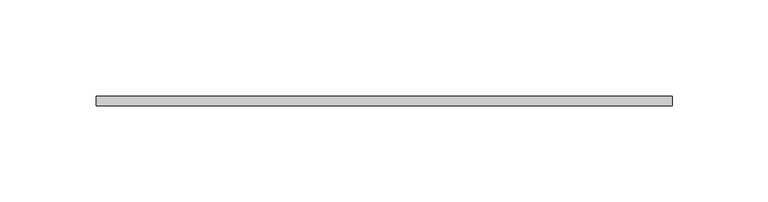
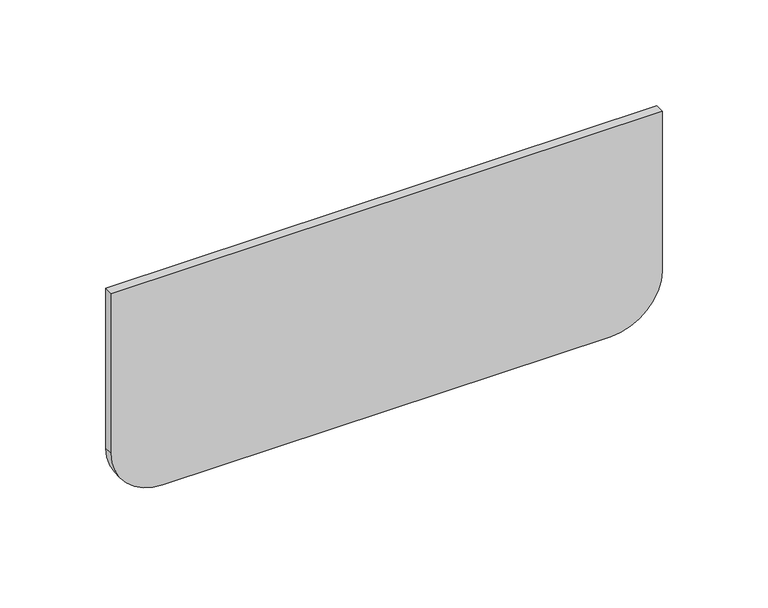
"""IFC4 building model written with IfcOpenShell, lengths in millimetres: cable carrier fitting geometry, CCT_Hyperline_FBTR-TTR Заглушка для оптического лотка : Заглушка для оптического лотка."""

from ifc_helpers import new_model, si_unit, point, frame, frame_2d, origin, place, context, project, spatial, polyline, circle_curve, trimmed, segment, composite_curve, outline, extrude, source, transform, mapped, element, save


def cable_carrier_fitting_c851f92b(model_context):
    return source(origin(), model_context, "Body", "SweptSolid", [
        extrude(outline(composite_curve([segment(trimmed(circle_curve(frame_2d((-32.0, -122.0)), 28.0), [point((-32.0, -150.0))], [point((-60.0, -122.0))], False, "CARTESIAN"), True, "CONTINUOUS"), segment(polyline([(-60.0, -122.0), (-60.0, 122.0)]), True, "CONTINUOUS"), segment(trimmed(circle_curve(frame_2d((-32.0, 122.0)), 28.0), [point((-60.0, 122.0))], [point((-32.0, 150.0))], False, "CARTESIAN"), True, "CONTINUOUS"), segment(polyline([(-32.0, 150.0), (60.0, 150.0), (60.0, -150.0), (-32.0, -150.0)]), True, "CONTINUOUS")], self_intersect=False)), frame((0.0, -2.5, 0.0), z_axis=(0.0, 1.0, 0.0), x_axis=(0.0, 0.0, 1.0)), (0.0, 0.0, 1.0), 5.0),
    ])


if __name__ == "__main__":
    model = new_model("IFC4")
    model_context = context("Model", 3, world=origin())
    ifc_project = project(units=[si_unit("LENGTHUNIT", "METRE", prefix="MILLI")], contexts=[model_context])
    site = spatial("IfcSite", under=ifc_project)
    building = spatial("IfcBuilding", under=site)
    placement = place(None, origin())
    cable_carrier_fitting_shape = cable_carrier_fitting_c851f92b(model_context)
    element("IfcCableCarrierFitting", 1, ObjectType="CCT_Hyperline_FBTR-TTR Заглушка для оптического лотка : Заглушка для оптического лотка", at=placement, inside=building, context=model_context, shape_type="MappedRepresentation", body=[
        mapped(cable_carrier_fitting_shape, transform((0.0, 0.0, 0.0), x_axis=(1.0, 0.0, 0.0), y_axis=(0.0, 1.0, 0.0), z_axis=(0.0, 0.0, 1.0))),
    ])
    save(model, "model.ifc")
